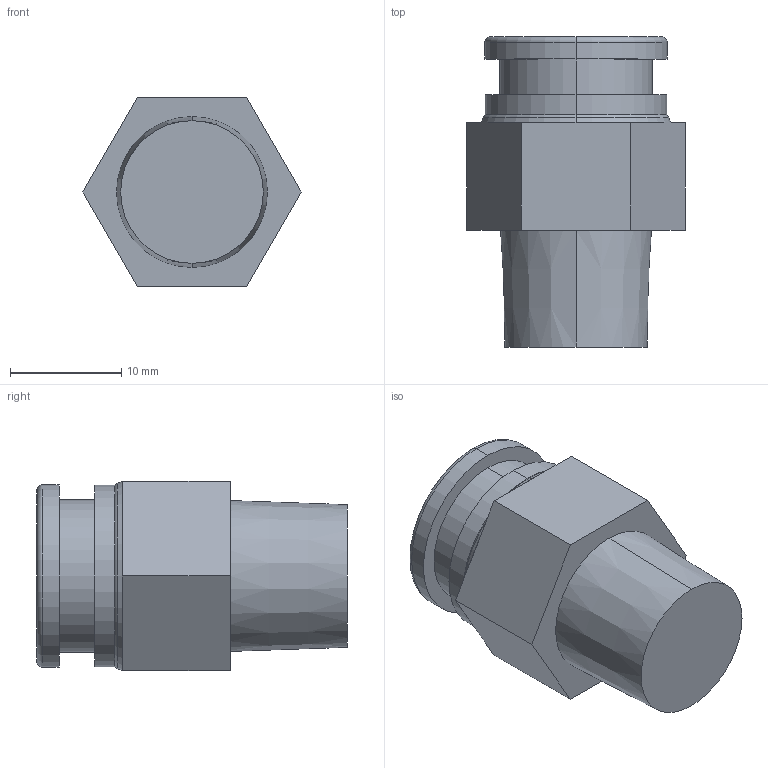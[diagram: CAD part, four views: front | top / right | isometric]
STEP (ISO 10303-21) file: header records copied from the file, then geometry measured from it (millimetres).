
FILE_DESCRIPTION (( 'STEP AP214' ), '1' );
FILE_NAME ('KQB2H10-02S.step.step', '2022-07-18T14:18:15', ( '' ), ( '' ), 'SwSTEP 2.0', 'SolidWorks 2022', '' );
FILE_SCHEMA (( 'AUTOMOTIVE_DESIGN' ));
Length unit declared in the file: millimetre
Products named in the file (2): KQB2H10-02S.step_KQB2 Male Connect_10-02; KQB2H10-02S.step
Assembly tree (1 placements, depth 2):
  KQB2H10-02S.step
    KQB2H10-02S.step_KQB2 Male Connect_10-02
Bounding box: 19.63 x 27.9 x 17 mm (x, y, z)
Volume: 3909.6 mm3; surface area: 2507.2 mm2
Topology: 1 solids, 1 shells, 34 faces, 70 edges, 42 vertices
Faces by surface type: plane 18, cylinder 8, torus 4, cone 4
Entity records: 962 total; most frequent: DIRECTION 180, CARTESIAN_POINT 150, ORIENTED_EDGE 140, AXIS2_PLACEMENT_3D 72, EDGE_CURVE 70, VERTEX_POINT 42, EDGE_LOOP 38, LINE 36
